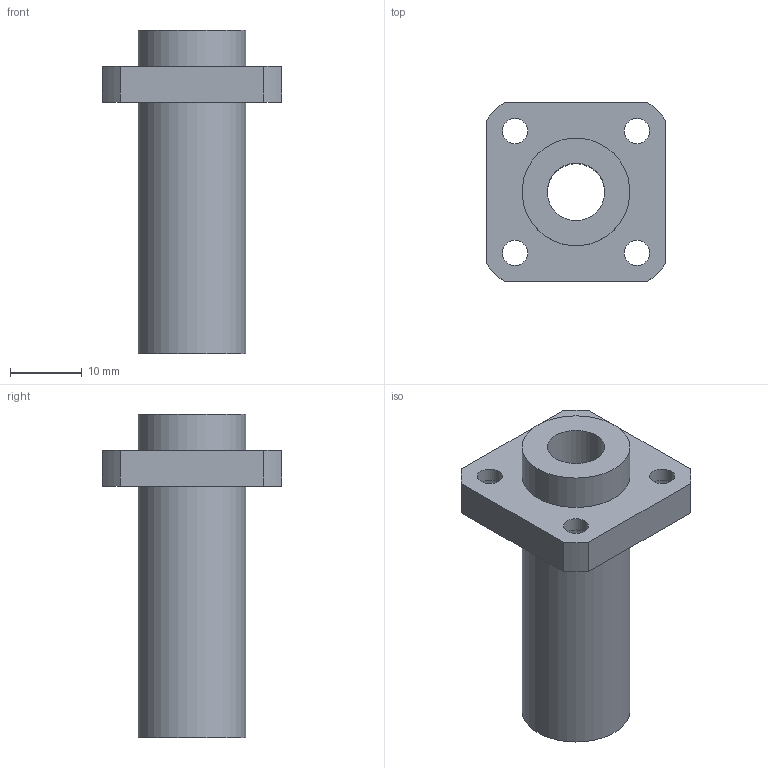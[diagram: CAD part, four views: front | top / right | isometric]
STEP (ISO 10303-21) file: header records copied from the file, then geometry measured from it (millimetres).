
FILE_DESCRIPTION(/* description */ (''),/* implementation_level */ '2;1');
FILE_NAME(/* name */ 'LMKP8LUU',/* time_stamp */ '2019-07-10T14:03:02+02:00',/* author */ ('VĂ©gh MĂˇtĂ©'),/* organization */ ('Bearing Kft'),/* preprocessor_version */ 'ST-DEVELOPER v16.7',/* originating_system */ 'DEX',/* authorisation */ $);
FILE_SCHEMA (('AUTOMOTIVE_DESIGN {1 0 10303 214 3 1 1}'));
Length unit declared in the file: millimetre
Products named in the file (1): LMKP8LUU
Bounding box: 25 x 25 x 45 mm (x, y, z)
Volume: 7448.8 mm3; surface area: 4863.5 mm2
Topology: 1 solids, 1 shells, 341 faces, 856 edges, 572 vertices
Faces by surface type: plane 259, bspline 65, cylinder 17
Full cylindrical faces by diameter (mm): 3.5 x4, 6 x4, 8 x1, 15 x2
Entity records: 12644 total; most frequent: CARTESIAN_POINT 4887, ORIENTED_EDGE 1676, DIRECTION 1296, EDGE_CURVE 838, LINE 674, VECTOR 674, VERTEX_POINT 568, EDGE_LOOP 420
